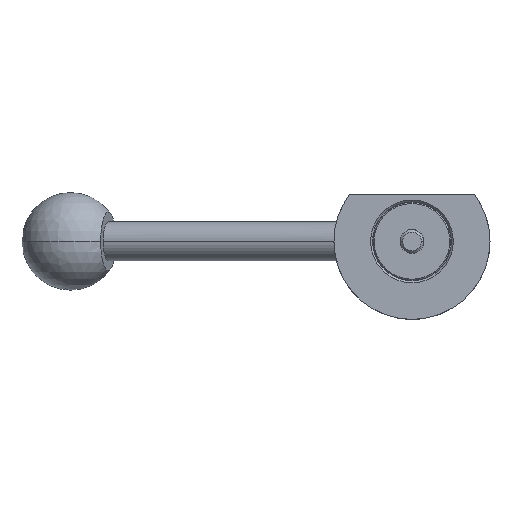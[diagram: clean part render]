
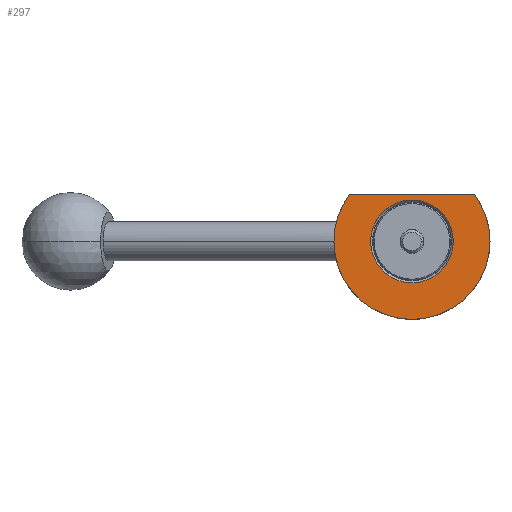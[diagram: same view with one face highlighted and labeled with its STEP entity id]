
A CAD part, front view. The second image highlights one B-rep face of the part: STEP entity #297.
In plain terms, the highlighted planar face has unit normal (0, -1, 0).
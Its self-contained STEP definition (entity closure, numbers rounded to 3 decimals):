
#20 = DIRECTION ( 'NONE',  ( 0., 1., 0. ) ) ;
#23 = DIRECTION ( 'NONE',  ( -1., 0., 0. ) ) ;
#63 = CARTESIAN_POINT ( 'NONE',  ( 20., -10., 0. ) ) ;
#95 = CIRCLE ( 'NONE', #1590, 10.6 ) ;
#100 = EDGE_CURVE ( 'NONE', #1612, #1070, #1483, .T. ) ;
#105 = DIRECTION ( 'NONE',  ( 0., -1., 0. ) ) ;
#174 = DIRECTION ( 'NONE',  ( 0., 1., 0. ) ) ;
#191 = ORIENTED_EDGE ( 'NONE', *, *, #100, .F. ) ;
#206 = CARTESIAN_POINT ( 'NONE',  ( 0., -10., 0. ) ) ;
#220 = VERTEX_POINT ( 'NONE', #1473 ) ;
#297 = ADVANCED_FACE ( 'NONE', ( #1173, #1532 ), #445, .T. ) ;
#303 = ORIENTED_EDGE ( 'NONE', *, *, #1303, .T. ) ;
#321 = CARTESIAN_POINT ( 'NONE',  ( 0., -10., 0. ) ) ;
#366 = ORIENTED_EDGE ( 'NONE', *, *, #568, .T. ) ;
#445 = PLANE ( 'NONE',  #1454 ) ;
#449 = AXIS2_PLACEMENT_3D ( 'NONE', #206, #20, #1614 ) ;
#488 = DIRECTION ( 'NONE',  ( -1., 0., 0. ) ) ;
#517 = CARTESIAN_POINT ( 'NONE',  ( 0., -10., 0. ) ) ;
#525 = ORIENTED_EDGE ( 'NONE', *, *, #1833, .F. ) ;
#568 = EDGE_CURVE ( 'NONE', #220, #1070, #1899, .T. ) ;
#580 = DIRECTION ( 'NONE',  ( 1., 0., 0. ) ) ;
#596 = CARTESIAN_POINT ( 'NONE',  ( -10.6, -10., 0. ) ) ;
#597 = AXIS2_PLACEMENT_3D ( 'NONE', #321, #937, #660 ) ;
#598 = CARTESIAN_POINT ( 'NONE',  ( -16.001, -10., 11.999 ) ) ;
#618 = CARTESIAN_POINT ( 'NONE',  ( -10.6, -10., 11.999 ) ) ;
#660 = DIRECTION ( 'NONE',  ( -1., 0., 0. ) ) ;
#885 = EDGE_LOOP ( 'NONE', ( #303, #989 ) ) ;
#903 = AXIS2_PLACEMENT_3D ( 'NONE', #517, #174, #986 ) ;
#937 = DIRECTION ( 'NONE',  ( 0., 1., 0. ) ) ;
#957 = CARTESIAN_POINT ( 'NONE',  ( 0., -10., 0. ) ) ;
#978 = DIRECTION ( 'NONE',  ( -1., 0., 0. ) ) ;
#986 = DIRECTION ( 'NONE',  ( -1., 0., 0. ) ) ;
#989 = ORIENTED_EDGE ( 'NONE', *, *, #1292, .T. ) ;
#1042 = EDGE_LOOP ( 'NONE', ( #1974, #366, #191, #525 ) ) ;
#1059 = CIRCLE ( 'NONE', #1729, 10.6 ) ;
#1070 = VERTEX_POINT ( 'NONE', #598 ) ;
#1130 = CARTESIAN_POINT ( 'NONE',  ( 0., -10., 0. ) ) ;
#1173 = FACE_BOUND ( 'NONE', #885, .T. ) ;
#1199 = VERTEX_POINT ( 'NONE', #1231 ) ;
#1231 = CARTESIAN_POINT ( 'NONE',  ( 10.6, -10., 0. ) ) ;
#1292 = EDGE_CURVE ( 'NONE', #1610, #1199, #95, .T. ) ;
#1303 = EDGE_CURVE ( 'NONE', #1199, #1610, #1059, .T. ) ;
#1379 = CARTESIAN_POINT ( 'NONE',  ( -20., -10., 0. ) ) ;
#1391 = CIRCLE ( 'NONE', #449, 20. ) ;
#1437 = DIRECTION ( 'NONE',  ( 0., 1., 0. ) ) ;
#1454 = AXIS2_PLACEMENT_3D ( 'NONE', #596, #105, #580 ) ;
#1473 = CARTESIAN_POINT ( 'NONE',  ( 16.001, -10., 11.999 ) ) ;
#1483 = CIRCLE ( 'NONE', #597, 20. ) ;
#1532 = FACE_OUTER_BOUND ( 'NONE', #1042, .T. ) ;
#1590 = AXIS2_PLACEMENT_3D ( 'NONE', #957, #1900, #23 ) ;
#1610 = VERTEX_POINT ( 'NONE', #1677 ) ;
#1612 = VERTEX_POINT ( 'NONE', #1379 ) ;
#1614 = DIRECTION ( 'NONE',  ( -1., 0., 0. ) ) ;
#1677 = CARTESIAN_POINT ( 'NONE',  ( -10.6, -10., 0. ) ) ;
#1729 = AXIS2_PLACEMENT_3D ( 'NONE', #1130, #1437, #978 ) ;
#1755 = EDGE_CURVE ( 'NONE', #220, #1888, #1897, .T. ) ;
#1833 = EDGE_CURVE ( 'NONE', #1888, #1612, #1391, .T. ) ;
#1846 = VECTOR ( 'NONE', #488, 1000. ) ;
#1888 = VERTEX_POINT ( 'NONE', #63 ) ;
#1897 = CIRCLE ( 'NONE', #903, 20. ) ;
#1899 = LINE ( 'NONE', #618, #1846 ) ;
#1900 = DIRECTION ( 'NONE',  ( 0., 1., 0. ) ) ;
#1974 = ORIENTED_EDGE ( 'NONE', *, *, #1755, .F. ) ;
